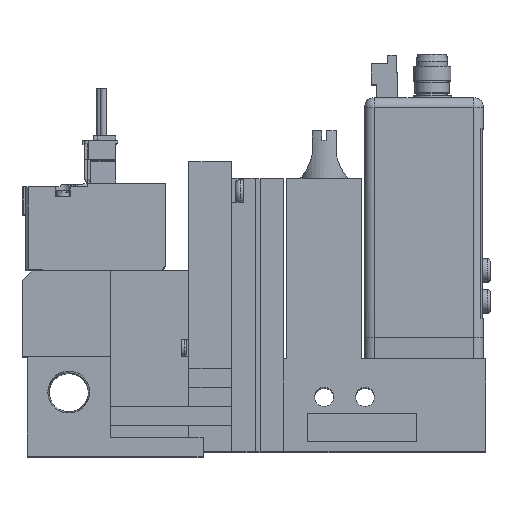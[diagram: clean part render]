
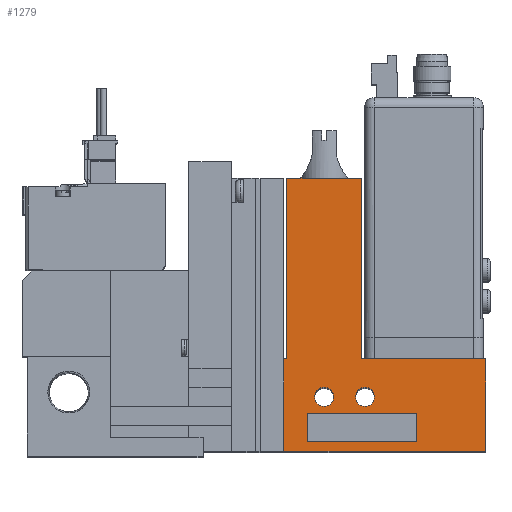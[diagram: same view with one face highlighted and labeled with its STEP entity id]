
A CAD part, top view. The second image highlights one B-rep face of the part: STEP entity #1279.
In plain terms, the highlighted planar face has unit normal (0, 0, 1).
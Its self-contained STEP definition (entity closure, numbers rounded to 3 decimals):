
#1279=ADVANCED_FACE('',(#5439,#5440,#5441,#5442),#5443,.T.);
#5439=FACE_BOUND('',#14128,.T.);
#5440=FACE_BOUND('',#14129,.T.);
#5441=FACE_BOUND('',#14130,.T.);
#5442=FACE_OUTER_BOUND('',#14131,.T.);
#5443=PLANE('',#14132);
#14128=EDGE_LOOP('',(#25161,#25162,#25163,#25164));
#14129=EDGE_LOOP('',(#25165));
#14130=EDGE_LOOP('',(#25166));
#14131=EDGE_LOOP('',(#25167,#25168,#25169,#25170,#25171,#25172,#25173,#25174));
#14132=AXIS2_PLACEMENT_3D('',#25175,#25176,#25177);
#25161=ORIENTED_EDGE('',*,*,#52880,.T.);
#25162=ORIENTED_EDGE('',*,*,#52826,.T.);
#25163=ORIENTED_EDGE('',*,*,#52664,.T.);
#25164=ORIENTED_EDGE('',*,*,#52841,.T.);
#25165=ORIENTED_EDGE('',*,*,#52674,.T.);
#25166=ORIENTED_EDGE('',*,*,#52881,.T.);
#25167=ORIENTED_EDGE('',*,*,#52730,.F.);
#25168=ORIENTED_EDGE('',*,*,#52721,.T.);
#25169=ORIENTED_EDGE('',*,*,#52882,.T.);
#25170=ORIENTED_EDGE('',*,*,#52817,.T.);
#25171=ORIENTED_EDGE('',*,*,#52703,.T.);
#25172=ORIENTED_EDGE('',*,*,#52700,.T.);
#25173=ORIENTED_EDGE('',*,*,#52707,.T.);
#25174=ORIENTED_EDGE('',*,*,#52883,.T.);
#25175=CARTESIAN_POINT('',(0.0,0.0,10.0));
#25176=DIRECTION('',(0.0,0.0,1.0));
#25177=DIRECTION('',(1.0,0.0,0.0));
#52664=EDGE_CURVE('',#63604,#63609,#63611,.T.);
#52674=EDGE_CURVE('',#63630,#63630,#63631,.T.);
#52700=EDGE_CURVE('',#63675,#63673,#63676,.T.);
#52703=EDGE_CURVE('',#63680,#63675,#63681,.T.);
#52707=EDGE_CURVE('',#63673,#63685,#63687,.T.);
#52721=EDGE_CURVE('',#63711,#63709,#63712,.T.);
#52730=EDGE_CURVE('',#63711,#63727,#63728,.T.);
#52817=EDGE_CURVE('',#63870,#63680,#63871,.T.);
#52826=EDGE_CURVE('',#63880,#63604,#63882,.T.);
#52841=EDGE_CURVE('',#63609,#63900,#63902,.T.);
#52880=EDGE_CURVE('',#63900,#63880,#63950,.T.);
#52881=EDGE_CURVE('',#63951,#63951,#63952,.T.);
#52882=EDGE_CURVE('',#63709,#63870,#63953,.T.);
#52883=EDGE_CURVE('',#63685,#63727,#63954,.T.);
#63604=VERTEX_POINT('',#79853);
#63609=VERTEX_POINT('',#79860);
#63611=LINE('',#79863,#79864);
#63630=VERTEX_POINT('',#79891);
#63631=CIRCLE('',#79892,2.0);
#63673=VERTEX_POINT('',#79974);
#63675=VERTEX_POINT('',#79977);
#63676=LINE('',#79978,#79979);
#63680=VERTEX_POINT('',#79985);
#63681=LINE('',#79986,#79987);
#63685=VERTEX_POINT('',#79993);
#63687=LINE('',#79996,#79997);
#63709=VERTEX_POINT('',#80031);
#63711=VERTEX_POINT('',#80034);
#63712=LINE('',#80035,#80036);
#63727=VERTEX_POINT('',#80059);
#63728=LINE('',#80060,#80061);
#63870=VERTEX_POINT('',#80280);
#63871=LINE('',#80281,#80282);
#63880=VERTEX_POINT('',#80298);
#63882=LINE('',#80301,#80302);
#63900=VERTEX_POINT('',#80359);
#63902=LINE('',#80362,#80363);
#63950=LINE('',#80446,#80447);
#63951=VERTEX_POINT('',#80448);
#63952=CIRCLE('',#80449,2.0);
#63953=LINE('',#80450,#80451);
#63954=LINE('',#80452,#80453);
#79853=CARTESIAN_POINT('',(83.1,8.0,10.0));
#79860=CARTESIAN_POINT('',(83.1,2.0,10.0));
#79863=CARTESIAN_POINT('',(83.1,0.0,10.0));
#79864=VECTOR('',#103083,1.0);
#79891=CARTESIAN_POINT('',(65.6,11.5,10.0));
#79892=AXIS2_PLACEMENT_3D('',#103095,#103096,#103097);
#79974=CARTESIAN_POINT('',(55.75,57.5,10.0));
#79977=CARTESIAN_POINT('',(71.45,57.5,10.0));
#79978=CARTESIAN_POINT('',(71.45,57.5,10.0));
#79979=VECTOR('',#103134,1.0);
#79985=CARTESIAN_POINT('',(71.45,19.5,10.0));
#79986=CARTESIAN_POINT('',(71.45,19.5,10.0));
#79987=VECTOR('',#103137,1.0);
#79993=CARTESIAN_POINT('',(55.75,19.5,10.0));
#79996=CARTESIAN_POINT('',(55.75,57.5,10.0));
#79997=VECTOR('',#103141,1.0);
#80031=CARTESIAN_POINT('',(97.6,0.0,10.0));
#80034=CARTESIAN_POINT('',(55.1,0.0,10.0));
#80035=CARTESIAN_POINT('',(18.6,0.0,10.0));
#80036=VECTOR('',#103155,1.0);
#80059=CARTESIAN_POINT('',(55.1,19.5,10.0));
#80060=CARTESIAN_POINT('',(55.1,0.0,10.0));
#80061=VECTOR('',#103164,1.0);
#80280=CARTESIAN_POINT('',(97.6,19.5,10.0));
#80281=CARTESIAN_POINT('',(97.6,19.5,10.0));
#80282=VECTOR('',#103269,1.0);
#80298=CARTESIAN_POINT('',(60.1,8.0,10.0));
#80301=CARTESIAN_POINT('',(0.0,8.0,10.0));
#80302=VECTOR('',#103278,1.0);
#80359=CARTESIAN_POINT('',(60.1,2.0,10.0));
#80362=CARTESIAN_POINT('',(0.0,2.0,10.0));
#80363=VECTOR('',#103292,1.0);
#80446=CARTESIAN_POINT('',(60.1,0.0,10.0));
#80447=VECTOR('',#103337,1.0);
#80448=CARTESIAN_POINT('',(74.2,11.5,10.0));
#80449=AXIS2_PLACEMENT_3D('',#103338,#103339,#103340);
#80450=CARTESIAN_POINT('',(97.6,0.0,10.0));
#80451=VECTOR('',#103341,1.0);
#80452=CARTESIAN_POINT('',(55.75,19.5,10.0));
#80453=VECTOR('',#103342,1.0);
#103083=DIRECTION('',(0.0,-1.0,0.0));
#103095=CARTESIAN_POINT('',(63.6,11.5,10.0));
#103096=DIRECTION('',(0.0,0.0,-1.0));
#103097=DIRECTION('',(1.0,0.0,0.0));
#103134=DIRECTION('',(-1.0,0.0,0.0));
#103137=DIRECTION('',(0.0,1.0,0.0));
#103141=DIRECTION('',(0.0,-1.0,0.0));
#103155=DIRECTION('',(1.0,0.0,0.0));
#103164=DIRECTION('',(0.0,1.0,0.0));
#103269=DIRECTION('',(-1.0,0.0,0.0));
#103278=DIRECTION('',(1.0,0.0,0.0));
#103292=DIRECTION('',(-1.0,0.0,0.0));
#103337=DIRECTION('',(0.0,1.0,0.0));
#103338=CARTESIAN_POINT('',(72.2,11.5,10.0));
#103339=DIRECTION('',(0.0,0.0,-1.0));
#103340=DIRECTION('',(1.0,0.0,0.0));
#103341=DIRECTION('',(0.0,1.0,0.0));
#103342=DIRECTION('',(-1.0,0.0,0.0));
